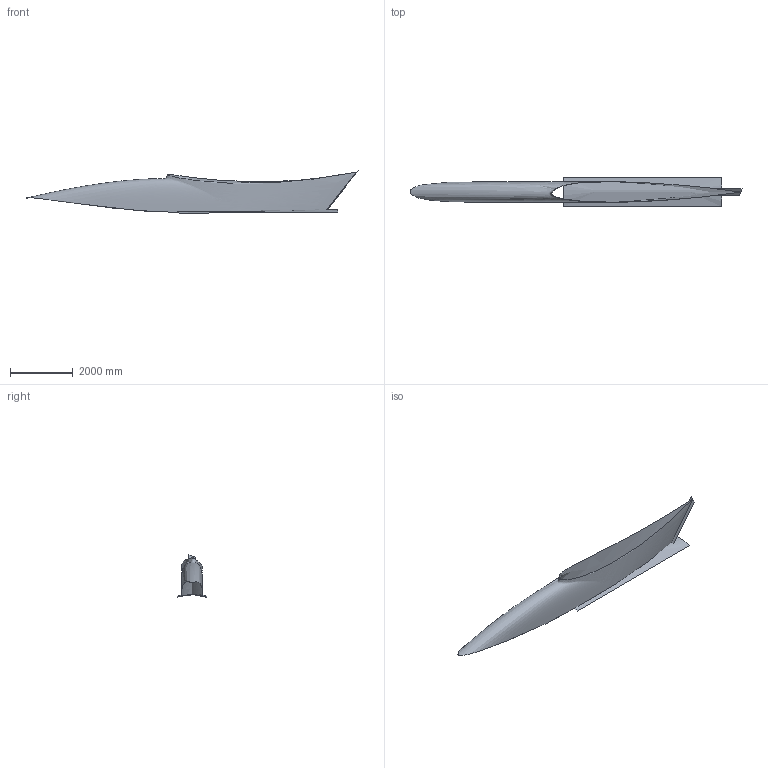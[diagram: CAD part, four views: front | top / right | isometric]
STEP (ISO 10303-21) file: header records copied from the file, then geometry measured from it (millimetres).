
FILE_DESCRIPTION(('CATIA V5 STEP Exchange'),'2;1');
FILE_NAME('C:\Users\dsl0381\Desktop\pyln01r2.stp','2022-05-19T14:58:26+00:00',('none'),('none'),'CATIA Version 5-6 Release 2018 SP6 HF6','CATIA V5 STEP AP203','none');
FILE_SCHEMA(('CONFIG_CONTROL_DESIGN'));
Products named in the file (1): 67260334
Bounding box: 10614.56 x 953.12 x 1356.02 mm (x, y, z)
Surface area: 24345898.9 mm2 (no closed solid volume)
Topology: 0 solids, 3 shells, 3 faces, 12 edges, 12 vertices
Faces by surface type: bspline 3
Entity records: 51638 total; most frequent: CARTESIAN_POINT 51526, ORIENTED_EDGE 12, B_SPLINE_CURVE_WITH_KNOTS 12, EDGE_CURVE 12, VERTEX_POINT 12, CC_DESIGN_PERSON_AND_ORGANIZATION_ASSIGNMENT 4, PERSON_AND_ORGANIZATION_ROLE 4, OPEN_SHELL 3
